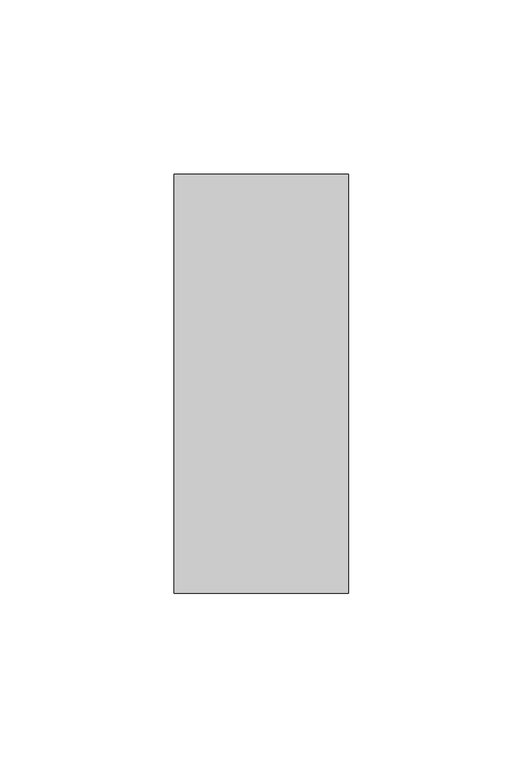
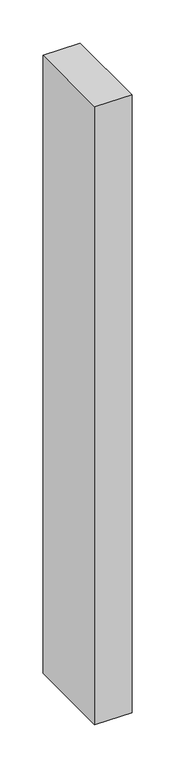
"""IFC4 building model written with IfcOpenShell, lengths in millimetres: member geometry, Прямоугольный импост : 50х120 мм."""

from ifc_helpers import new_model, si_unit, frame, origin, place, context, project, spatial, polyline, outline, extrude, source, transform, mapped, element, save


def member_29c79f2a(model_context):
    return source(origin(), model_context, "Body", "SweptSolid", [
        extrude(outline(polyline([(25.0, 60.0), (25.0, -60.0), (-25.0, -60.0), (-25.0, 60.0), (25.0, 60.0)])), frame((0.0, 0.0, -875.0), z_axis=(0.0, 0.0, 1.0), x_axis=(1.0, 0.0, 0.0)), (0.0, 0.0, 1.0), 875.0),
    ])


if __name__ == "__main__":
    model = new_model("IFC4")
    model_context = context("Model", 3, world=origin())
    ifc_project = project(units=[si_unit("LENGTHUNIT", "METRE", prefix="MILLI")], contexts=[model_context])
    site = spatial("IfcSite", under=ifc_project)
    building = spatial("IfcBuilding", under=site)
    placement = place(None, origin())
    member_shape = member_29c79f2a(model_context)
    element("IfcMember", 1, ObjectType="Прямоугольный импост : 50х120 мм", at=placement, inside=building, context=model_context, shape_type="MappedRepresentation", body=[
        mapped(member_shape, transform((0.0, 0.0, 0.0), x_axis=(1.0, 0.0, 0.0), y_axis=(0.0, 1.0, 0.0), z_axis=(0.0, 0.0, 1.0))),
    ])
    save(model, "model.ifc")
